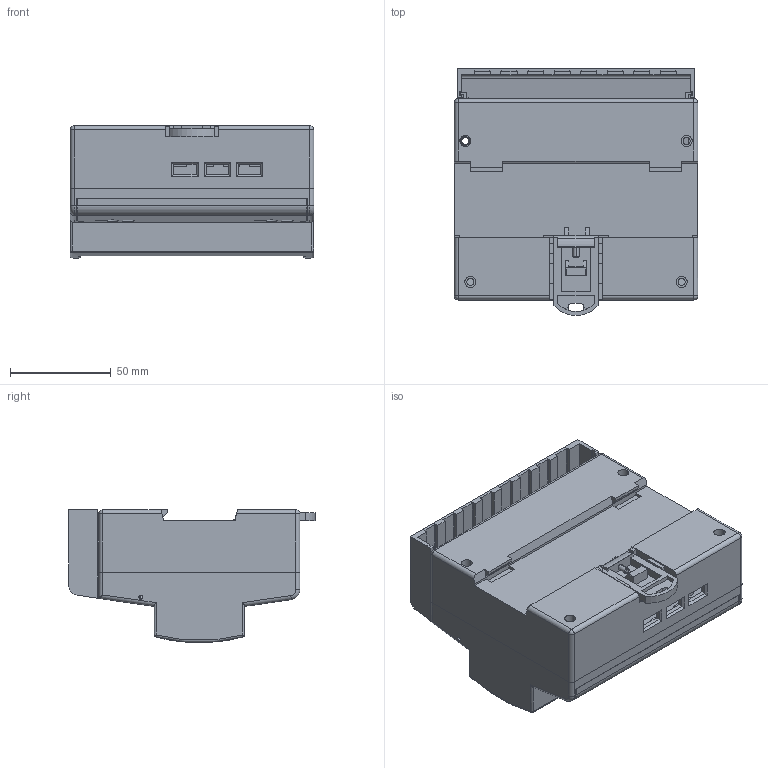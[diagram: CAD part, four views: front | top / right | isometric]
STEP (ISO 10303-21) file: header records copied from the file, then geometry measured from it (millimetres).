
FILE_DESCRIPTION (( 'STEP AP203' ), '1' );
FILE_NAME ('欭殣玁獥捗檠304.STEP', '2018-09-04T07:31:47', ( '' ), ( '' ), 'SwSTEP 2.0', 'SolidWorks 2017', '' );
FILE_SCHEMA (( 'CONFIG_CONTROL_DESIGN' ));
Length unit declared in the file: millimetre
Products named in the file (8): 昢膼瘔膻嬅捗檠304; Êðûøêà îñíîâíàÿ_ÑÊÀÒ304; 欭殣玁獥捗檠304; Êðûøêà âåðõíÿÿ_ÑÊÀÒ304(301); Êðûøêà íèæíÿÿ_ÑÊÀÒ304(301); 砎鍡譇籦鍷 鍧膼_捗檠304(301); 青腙郷咽酪304(301); Êëåììíàÿ êîëîäêà_ÑÊÀÒ304(301)
Assembly tree (7 placements, depth 2):
  欭殣玁獥捗檠304
    Êðûøêà îñíîâíàÿ_ÑÊÀÒ304
    砎鍡譇籦鍷 鍧膼_捗檠304(301)
    Êðûøêà âåðõíÿÿ_ÑÊÀÒ304(301)
    Êðûøêà íèæíÿÿ_ÑÊÀÒ304(301)
    昢膼瘔膻嬅捗檠304
    Êëåììíàÿ êîëîäêà_ÑÊÀÒ304(301)
    青腙郷咽酪304(301)
Bounding box: 121 x 122.73 x 66.21 mm (x, y, z)
Volume: 205987.5 mm3; surface area: 166824.1 mm2
Topology: 7 solids, 7 shells, 1484 faces, 4092 edges, 2653 vertices
Faces by surface type: plane 877, cylinder 545, sphere 20, torus 20, cone 11, bspline 11
Entity records: 50122 total; most frequent: CARTESIAN_POINT 11488, ORIENTED_EDGE 8142, DIRECTION 7604, EDGE_CURVE 4071, LINE 2772, VECTOR 2772, VERTEX_POINT 2653, AXIS2_PLACEMENT_3D 2416
